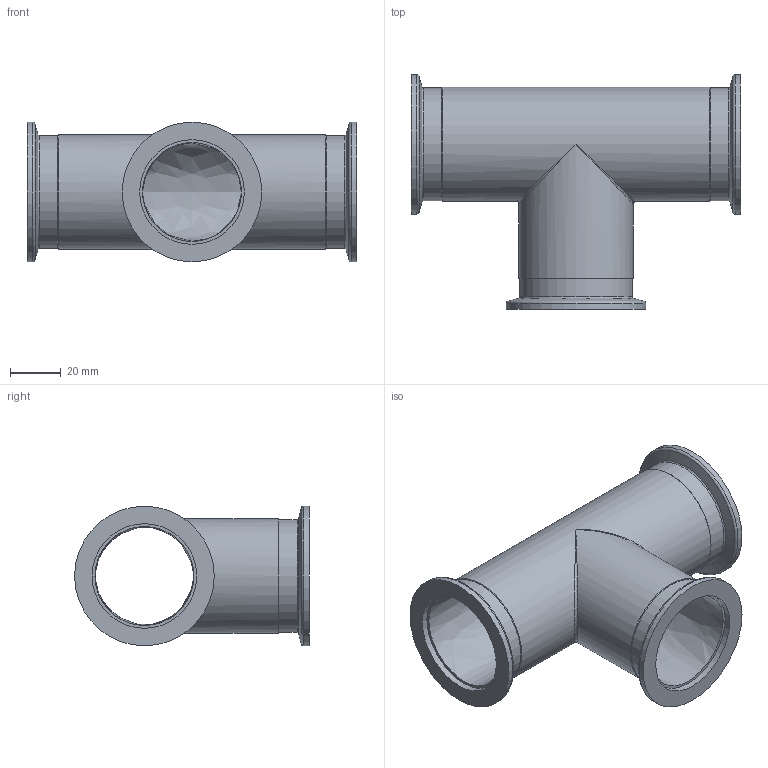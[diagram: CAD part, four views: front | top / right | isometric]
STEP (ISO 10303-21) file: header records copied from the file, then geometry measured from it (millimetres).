
FILE_DESCRIPTION((''),'2;1');
FILE_NAME('W:\M18408.stp','2006-08-30T12:33:31',('KAA'),(''),'Autodesk Inventor 10','Autodesk Inventor 10','');
FILE_SCHEMA(('CONFIG_CONTROL_DESIGN'));
Length unit declared in the file: millimetre
Products named in the file (1): M211-264
Bounding box: 130 x 92.5 x 55 mm (x, y, z)
Volume: 73338.7 mm3; surface area: 50002.2 mm2
Topology: 1 solids, 1 shells, 33 faces, 74 edges, 41 vertices
Faces by surface type: bspline 15, cylinder 8, cone 4, plane 4, torus 2
Full cylindrical faces by diameter (mm): 41.2 x2, 44.5 x2, 45 x2, 55 x2
Entity records: 1496 total; most frequent: CARTESIAN_POINT 867, DIRECTION 110, ORIENTED_EDGE 72, EDGE_LOOP 66, AXIS2_PLACEMENT_3D 55, EDGE_CURVE 36, VERTEX_POINT 34, FACE_OUTER_BOUND 33
